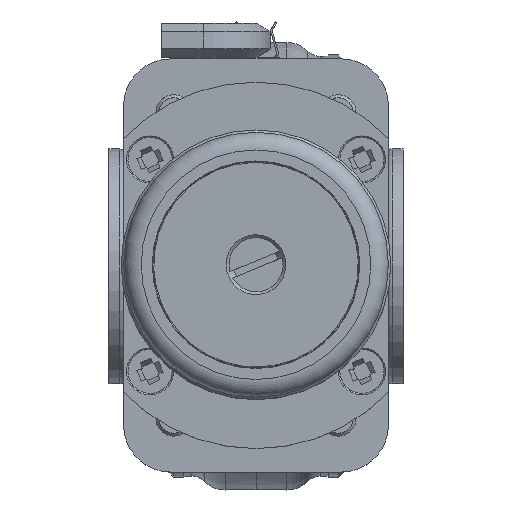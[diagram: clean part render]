
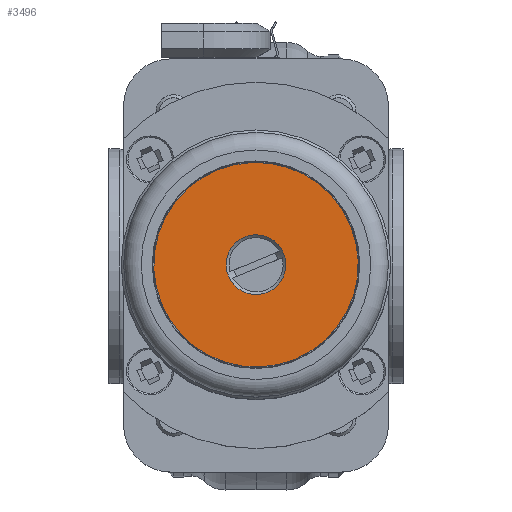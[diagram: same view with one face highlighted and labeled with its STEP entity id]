
A CAD part, top view. The second image highlights one B-rep face of the part: STEP entity #3496.
In plain terms, the highlighted planar face has unit normal (0, 0, 1) as drawn and (1, 0, 0) by its records, which use the part's own axes.
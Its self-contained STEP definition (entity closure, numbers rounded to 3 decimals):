
#3496=ADVANCED_FACE('',(#5796,#5797),#3898,.T.);
#3898=PLANE('',#12484);
#5796=FACE_BOUND('',#6385,.T.);
#5797=FACE_BOUND('',#6386,.T.);
#6385=EDGE_LOOP('',(#8196));
#6386=EDGE_LOOP('',(#8197));
#8196=ORIENTED_EDGE('',*,*,#10967,.T.);
#8197=ORIENTED_EDGE('',*,*,#10968,.F.);
#9848=VERTEX_POINT('',#23872);
#9849=VERTEX_POINT('',#23874);
#10967=EDGE_CURVE('',#9848,#9848,#11791,.T.);
#10968=EDGE_CURVE('',#9849,#9849,#11792,.T.);
#11791=CIRCLE('',#12482,5.075);
#11792=CIRCLE('',#12483,17.375);
#12482=AXIS2_PLACEMENT_3D('',#23871,#14389,#14390);
#12483=AXIS2_PLACEMENT_3D('',#23873,#14391,#14392);
#12484=AXIS2_PLACEMENT_3D('',#23875,#14393,#14394);
#14389=DIRECTION('',(-1.,0.,0.));
#14390=DIRECTION('',(0.,0.,1.));
#14391=DIRECTION('',(-1.,0.,0.));
#14392=DIRECTION('',(0.,0.,1.));
#14393=DIRECTION('',(1.,0.,0.));
#14394=DIRECTION('',(0.,0.,-1.));
#23871=CARTESIAN_POINT('',(12.1,0.,0.));
#23872=CARTESIAN_POINT('',(12.1,0.,5.075));
#23873=CARTESIAN_POINT('',(12.1,0.,0.));
#23874=CARTESIAN_POINT('',(12.1,0.,17.375));
#23875=CARTESIAN_POINT('',(12.1,17.375,0.));
